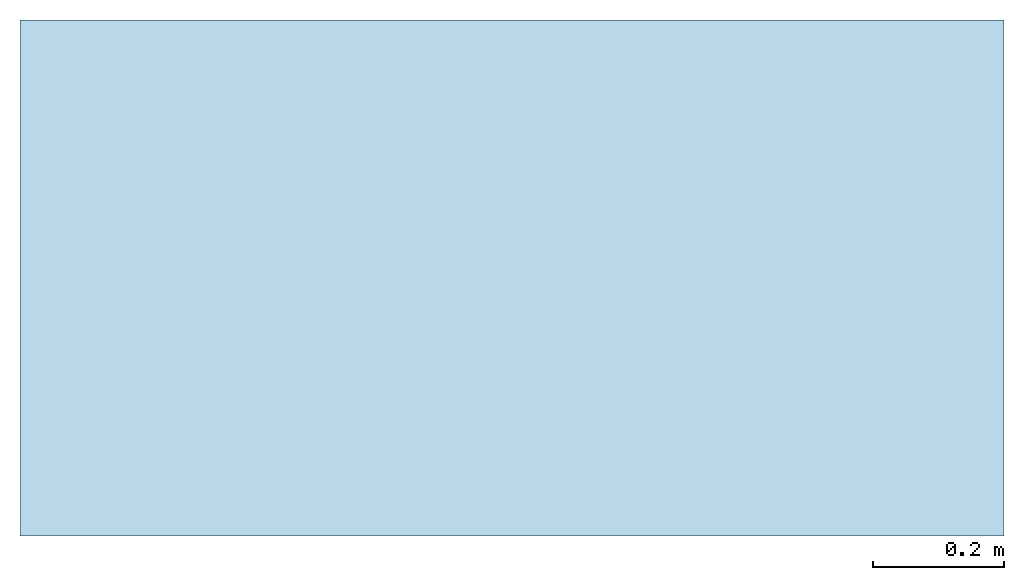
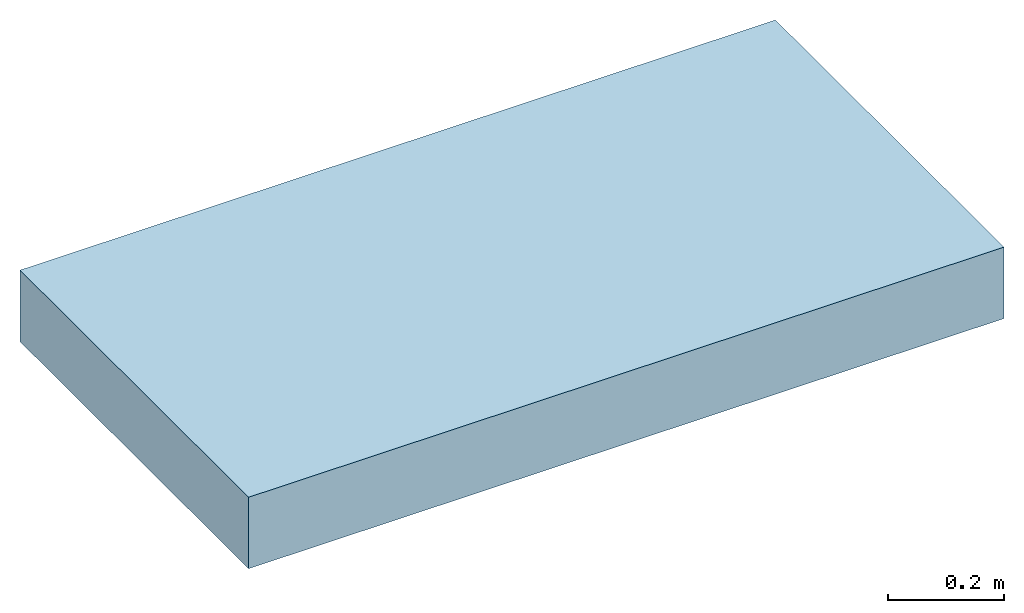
# One storey: 1 slab.
"""IFC4 building model written with IfcOpenShell, lengths in centimetres."""

from ifc_helpers import new_model, entity, si_unit, converted_unit, direction, frame, origin, place, context, subcontext, project, spatial, indexed_curve, outline, extrude, material, type_object, element, save


model = new_model("IFC4")

# Units and contexts
model_context = context("Model", 3, precision=0.001, world=origin(), true_north=direction((0.0, 1.0)))
body_context = subcontext(model_context, "Body", "Model", "MODEL_VIEW")
ifc_project = project(units=[si_unit("LENGTHUNIT", "METRE", prefix="CENTI"), si_unit("AREAUNIT", "SQUARE_METRE"), si_unit("VOLUMEUNIT", "CUBIC_METRE"), converted_unit("PLANEANGLEUNIT", "DEGREE", entity("IfcPlaneAngleMeasure", 0.017453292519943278), si_unit("PLANEANGLEUNIT", "RADIAN"), dimensions=[0, 0, 0, 0, 0, 0, 0])], contexts=[model_context])

# Site, building, storey
site_placement = place(None, origin())
site = spatial("IfcSite", under=ifc_project, at=site_placement, Name="Default", CompositionType="ELEMENT")
building_placement = place(site_placement, origin())
building = spatial("IfcBuilding", under=site, at=building_placement, CompositionType="ELEMENT")
storey_placement = place(building_placement, frame((0.0, 0.0, 273.0)))
storey = spatial("IfcBuildingStorey", under=building, at=storey_placement, Name="L01__ABOVE Slab", CompositionType="ELEMENT", Elevation=272.99999999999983)

# Slab
ifc_material = material(Name="_STRUCTURE__Wood")
slab_type = type_object("IfcSlabType", Name="Floors : Floor : flr__STRUCTURE__Wood Beams 15cm__TriqBriq", PredefinedType="FLOOR", material=ifc_material)
slab_placement = place(storey_placement, origin())
element("IfcSlab", 1, at=slab_placement, inside=storey, type_object=slab_type, material=ifc_material, Name="Floors : Floor : flr__STRUCTURE__Wood Beams 15cm__TriqBriq", PredefinedType="FLOOR", context=body_context, shape_type="SweptSolid", body=[
    extrude(outline(indexed_curve([(-39.31325247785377, -74.99999999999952), (39.31325247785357, -74.99999999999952), (39.31325247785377, 74.99999999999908), (-39.31325247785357, 74.9999999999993), (-39.31325247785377, -74.99999999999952)], self_intersect=False)), frame((1065.9494566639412, 1244.8517922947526, -27.499999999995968), z_axis=(0.0, 0.0, -1.0), x_axis=(0.0, 1.0, 0.0)), (0.0, 0.0, 1.0), 15.0),
])

save(model, "model.ifc")
